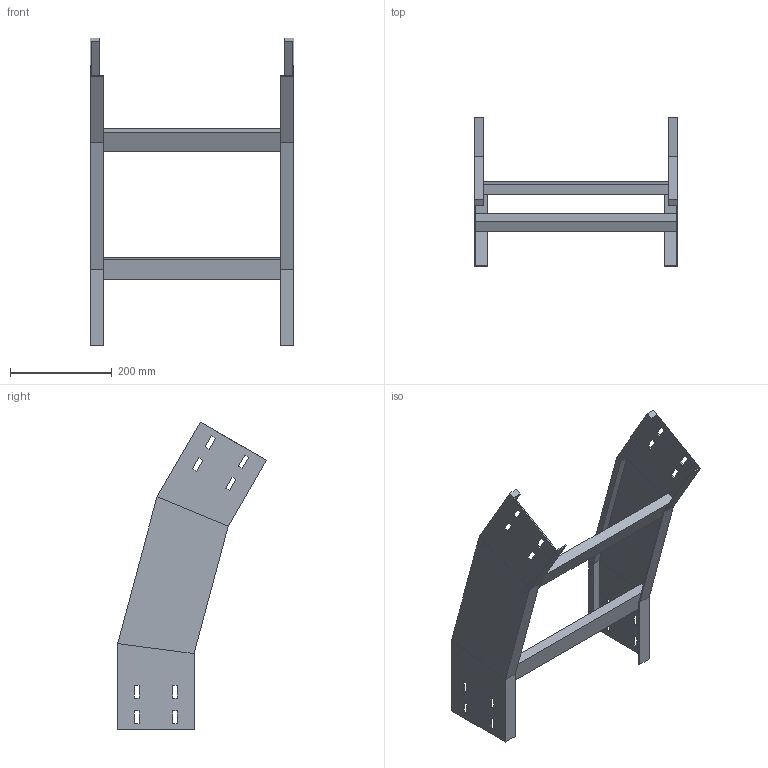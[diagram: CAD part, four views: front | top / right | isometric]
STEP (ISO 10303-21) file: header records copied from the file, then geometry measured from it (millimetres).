
FILE_DESCRIPTION (( 'STEP AP214' ), '1' );
FILE_NAME ('35J5F400.step', '2025-02-21T16:21:31', ( '' ), ( '' ), 'SwSTEP 2.0', 'SolidWorks 2023', '' );
FILE_SCHEMA (( 'AUTOMOTIVE_DESIGN' ));
Length unit declared in the file: millimetre
Products named in the file (3): TRAVERSINO_400; 35J5F400; LONGH.DISCESA_30°_H150_R500
Assembly tree (4 placements, depth 2):
  35J5F400
    LONGH.DISCESA_30°_H150_R500  x2
    TRAVERSINO_400  x2
Bounding box: 400 x 292.03 x 605.08 mm (x, y, z)
Volume: 1293145.5 mm3; surface area: 556683.3 mm2
Topology: 4 solids, 4 shells, 128 faces, 328 edges, 208 vertices
Faces by surface type: plane 128
Entity records: 2016 total; most frequent: CARTESIAN_POINT 339, ORIENTED_EDGE 328, DIRECTION 306, LINE 164, VECTOR 164, EDGE_CURVE 164, VERTEX_POINT 104, EDGE_LOOP 80
